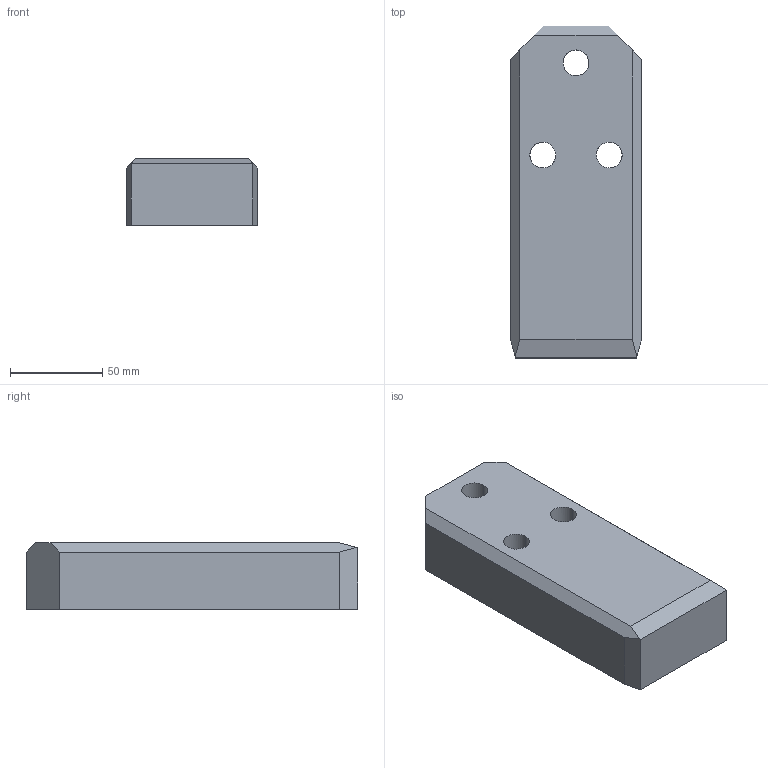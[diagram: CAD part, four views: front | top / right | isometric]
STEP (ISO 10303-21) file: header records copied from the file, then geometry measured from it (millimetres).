
FILE_DESCRIPTION(('CATIA V5 STEP Exchange'),'2;1');
FILE_NAME('C:\Users\borellobunino\Desktop\3D X SITO CF\A927\GSB_OILLESS_G2290507118036\STEP-2.03\A927-71X180X36.stp','2019-07-14T19:44:26+00:00',('none'),('none'),'CATIA Version 5 Release 20 GA (IN-10)','CATIA V5 STEP AP203','none');
FILE_SCHEMA(('CONFIG_CONTROL_DESIGN'));
Length unit declared in the file: millimetre
Products named in the file (1): A927-71X180X36
Bounding box: 71 x 180 x 36 mm (x, y, z)
Volume: 417431.4 mm3; surface area: 45276.7 mm2
Topology: 1 solids, 1 shells, 35 faces, 84 edges, 54 vertices
Faces by surface type: plane 17, cylinder 12, cone 6
Entity records: 1296 total; most frequent: CARTESIAN_POINT 450, ORIENTED_EDGE 168, DIRECTION 142, EDGE_CURVE 84, AXIS2_PLACEMENT_3D 54, VECTOR 54, LINE 54, VERTEX_POINT 54
